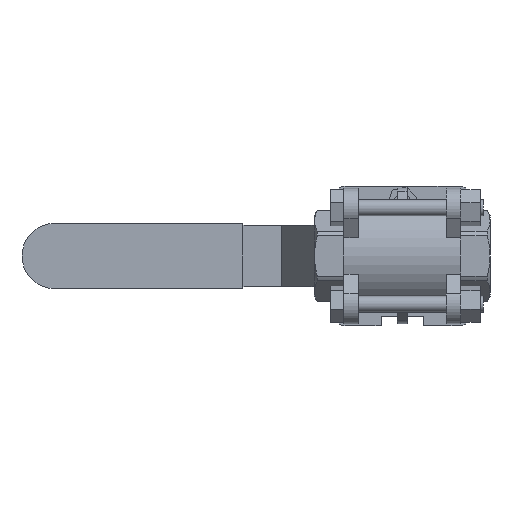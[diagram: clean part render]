
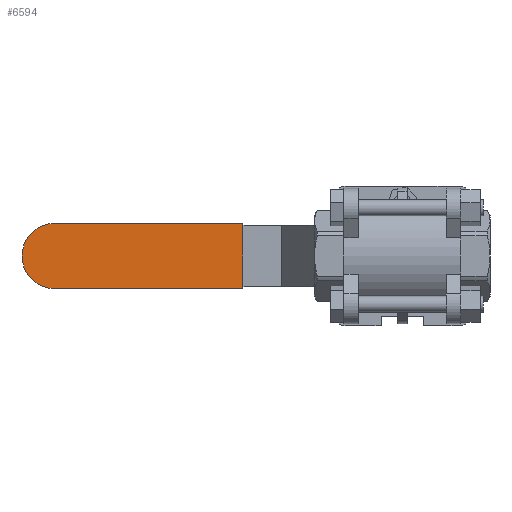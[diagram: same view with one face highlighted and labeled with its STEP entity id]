
A CAD part, front view. The second image highlights one B-rep face of the part: STEP entity #6594.
In plain terms, the highlighted planar face has unit normal (0, -1, 0).
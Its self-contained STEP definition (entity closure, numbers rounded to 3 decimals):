
#115 = VERTEX_POINT ( 'NONE', #5505 ) ;
#751 = CIRCLE ( 'NONE', #2145, 10. ) ;
#1104 = EDGE_CURVE ( 'NONE', #8455, #115, #3746, .T. ) ;
#1936 = ORIENTED_EDGE ( 'NONE', *, *, #8775, .F. ) ;
#2036 = CARTESIAN_POINT ( 'NONE',  ( -117., 59.5, -10. ) ) ;
#2130 = CARTESIAN_POINT ( 'NONE',  ( -107., 59.5, -10. ) ) ;
#2145 = AXIS2_PLACEMENT_3D ( 'NONE', #3299, #8054, #3984 ) ;
#2177 = DIRECTION ( 'NONE',  ( -1., 0., 0. ) ) ;
#2233 = PLANE ( 'NONE',  #4864 ) ;
#2922 = DIRECTION ( 'NONE',  ( 0., 0., 1. ) ) ;
#3038 = ORIENTED_EDGE ( 'NONE', *, *, #4229, .T. ) ;
#3299 = CARTESIAN_POINT ( 'NONE',  ( -107., 59.5, 0. ) ) ;
#3746 = LINE ( 'NONE', #2036, #5761 ) ;
#3949 = VECTOR ( 'NONE', #7701, 1000. ) ;
#3984 = DIRECTION ( 'NONE',  ( 0., 0., 1. ) ) ;
#4229 = EDGE_CURVE ( 'NONE', #6372, #8040, #5917, .T. ) ;
#4796 = FACE_OUTER_BOUND ( 'NONE', #6191, .T. ) ;
#4864 = AXIS2_PLACEMENT_3D ( 'NONE', #4909, #7009, #2922 ) ;
#4909 = CARTESIAN_POINT ( 'NONE',  ( -117., 59.5, 78.618 ) ) ;
#5505 = CARTESIAN_POINT ( 'NONE',  ( -49., 59.5, -10. ) ) ;
#5707 = CARTESIAN_POINT ( 'NONE',  ( -107., 59.5, 10. ) ) ;
#5714 = VECTOR ( 'NONE', #2177, 1000. ) ;
#5761 = VECTOR ( 'NONE', #6118, 1000. ) ;
#5917 = LINE ( 'NONE', #8292, #5714 ) ;
#6118 = DIRECTION ( 'NONE',  ( 1., 0., 0. ) ) ;
#6191 = EDGE_LOOP ( 'NONE', ( #3038, #1936, #6368, #8258 ) ) ;
#6368 = ORIENTED_EDGE ( 'NONE', *, *, #1104, .T. ) ;
#6372 = VERTEX_POINT ( 'NONE', #7393 ) ;
#6594 = ADVANCED_FACE ( 'NONE', ( #4796 ), #2233, .F. ) ;
#7009 = DIRECTION ( 'NONE',  ( 0., 1., 0. ) ) ;
#7015 = CARTESIAN_POINT ( 'NONE',  ( -49., 59.5, 78.618 ) ) ;
#7393 = CARTESIAN_POINT ( 'NONE',  ( -49., 59.5, 10. ) ) ;
#7577 = LINE ( 'NONE', #7015, #3949 ) ;
#7701 = DIRECTION ( 'NONE',  ( 0., 0., -1. ) ) ;
#8040 = VERTEX_POINT ( 'NONE', #5707 ) ;
#8054 = DIRECTION ( 'NONE',  ( 0., 1., 0. ) ) ;
#8258 = ORIENTED_EDGE ( 'NONE', *, *, #8532, .F. ) ;
#8292 = CARTESIAN_POINT ( 'NONE',  ( -117., 59.5, 10. ) ) ;
#8455 = VERTEX_POINT ( 'NONE', #2130 ) ;
#8532 = EDGE_CURVE ( 'NONE', #6372, #115, #7577, .T. ) ;
#8775 = EDGE_CURVE ( 'NONE', #8455, #8040, #751, .T. ) ;
